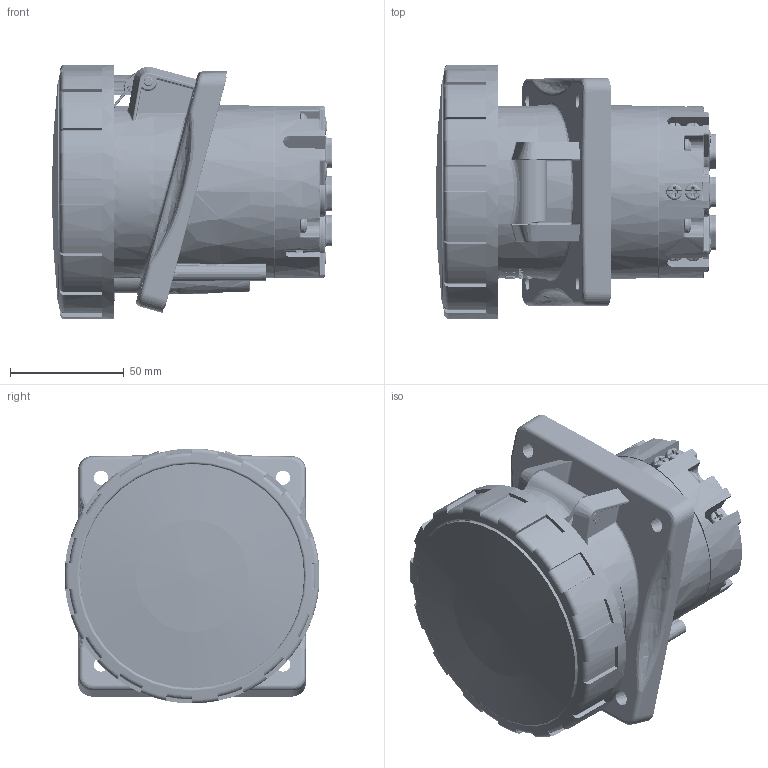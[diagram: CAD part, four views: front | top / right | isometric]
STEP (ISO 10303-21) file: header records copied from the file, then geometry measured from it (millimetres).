
FILE_DESCRIPTION(/* description */ (''),/* implementation_level */ '2;1');
FILE_NAME(/* name */ '4000670.stp',/* time_stamp */ '2019-07-15T08:01:33+02:00',/* author */ (''),/* organization */ (''),/* preprocessor_version */ 'ST-DEVELOPER v16.7',/* originating_system */ 'SIEMENS PLM Software NX 1867',/* authorisation */ '');
FILE_SCHEMA (('AUTOMOTIVE_DESIGN { 1 0 10303 214 3 1 1 1 }'));
Length unit declared in the file: millimetre
Products named in the file (1): BSOM51C82A0Eo63f
Bounding box: 123.16 x 111.97 x 112 mm (x, y, z)
Volume: 297843.1 mm3; surface area: 256434.9 mm2
Topology: 31 solids, 31 shells, 5800 faces, 15107 edges, 9303 vertices
Faces by surface type: plane 2072, cylinder 1431, bspline 1305, cone 335, torus 313, extrusion 255, sphere 81, revolution 8
Full cylindrical faces by diameter (mm): 1.1 x4, 1.5 x4, 2.4 x2, 3 x12, 3.5 x1, 3.9 x4, 4 x9, 4.06 x2, 4.2 x4, 4.5 x1, 4.6 x4, 4.7 x1, 5 x8, 5.3 x1, 5.7 x4, 7 x9, 7.7 x4, 8.1 x3, 10.1 x1, 11 x3, 13 x1, 59 x1, 60 x1, 98.1 x1, 98.5 x1, 103 x1, 104.5 x1, 112 x1
Entity records: 273168 total; most frequent: CARTESIAN_POINT 143012, ORIENTED_EDGE 29070, DIRECTION 22470, EDGE_CURVE 14535, VERTEX_POINT 9238, AXIS2_PLACEMENT_3D 8100, EDGE_LOOP 6333, VECTOR 6262
